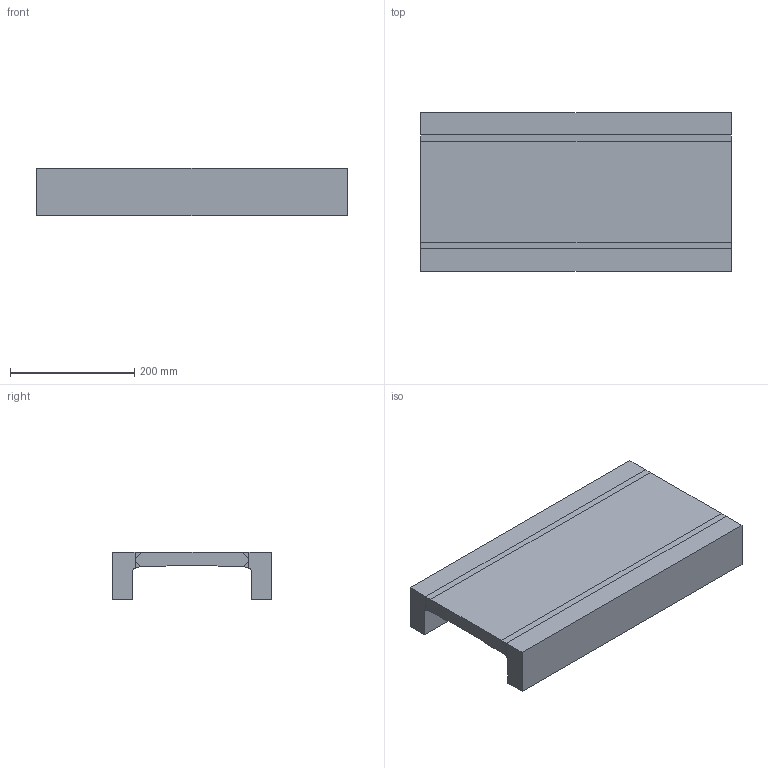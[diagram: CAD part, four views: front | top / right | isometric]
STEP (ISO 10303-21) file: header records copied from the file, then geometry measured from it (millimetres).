
FILE_DESCRIPTION((''),'2;1');
FILE_NAME('Z:\Kataloge\Katalog 109\Inventor-Dateien\Mammutrollen+MPI+MPU-Profile\ALFATEC_MPU_190_000.stp','2009-11-09T16:00:54',('Kircher'),(''),'Autodesk Inventor 2010','Autodesk Inventor 2010','');
FILE_SCHEMA(('CONFIG_CONTROL_DESIGN'));
Length unit declared in the file: millimetre
Products named in the file (4): ALFATEC_MPU_190_000; ALFATEC_MPU_190-Teil 1; ALFATEC_MPU_190-Teil 2; ALFATEC_MPU_190-Teil 3
Assembly tree (3 placements, depth 2):
  ALFATEC_MPU_190_000
    ALFATEC_MPU_190-Teil 1
    ALFATEC_MPU_190-Teil 2
    ALFATEC_MPU_190-Teil 3
Bounding box: 500 x 255 x 77 mm (x, y, z)
Volume: 4707691.2 mm3; surface area: 509749.8 mm2
Topology: 7 solids, 7 shells, 52 faces, 114 edges, 76 vertices
Faces by surface type: plane 50, cylinder 2
Entity records: 1529 total; most frequent: CARTESIAN_POINT 249, DIRECTION 236, ORIENTED_EDGE 228, EDGE_CURVE 114, VECTOR 110, LINE 110, VERTEX_POINT 76, AXIS2_PLACEMENT_3D 63
